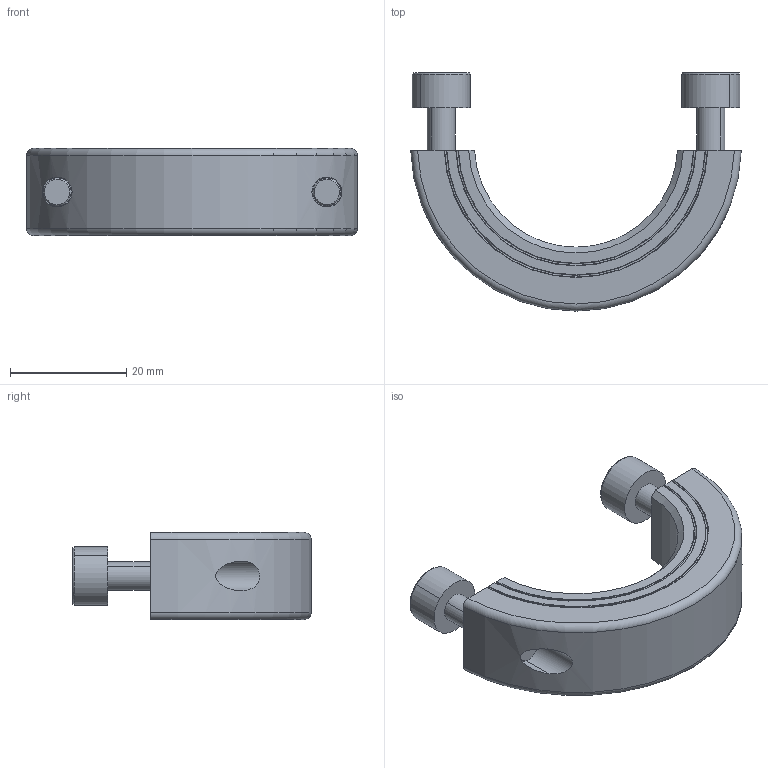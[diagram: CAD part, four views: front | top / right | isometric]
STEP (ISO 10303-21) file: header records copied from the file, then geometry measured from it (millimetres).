
FILE_DESCRIPTION((''),'2;1');
FILE_NAME('MSP-35-X','2016-09-09T',('SYSTEM'),(''),'PRO/ENGINEER BY PARAMETRIC TECHNOLOGY CORPORATION, 2015110','PRO/ENGINEER BY PARAMETRIC TECHNOLOGY CORPORATION, 2015110','');
FILE_SCHEMA(('AUTOMOTIVE_DESIGN { 1 0 10303 214 1 1 1 1 }'));
Length unit declared in the file: inch
Products named in the file (1): MSP-35-X
Bounding box: 56.98 x 41.03 x 15 mm (x, y, z)
Volume: 12368.7 mm3; surface area: 5589.7 mm2
Topology: 3 solids, 3 shells, 58 faces, 136 edges, 88 vertices
Faces by surface type: plane 26, cone 14, cylinder 14, torus 4
Entity records: 2268 total; most frequent: CARTESIAN_POINT 467, DIRECTION 272, ORIENTED_EDGE 272, EDGE_CURVE 136, AXIS2_PLACEMENT_3D 102, VERTEX_POINT 88, VECTOR 68, LINE 68
